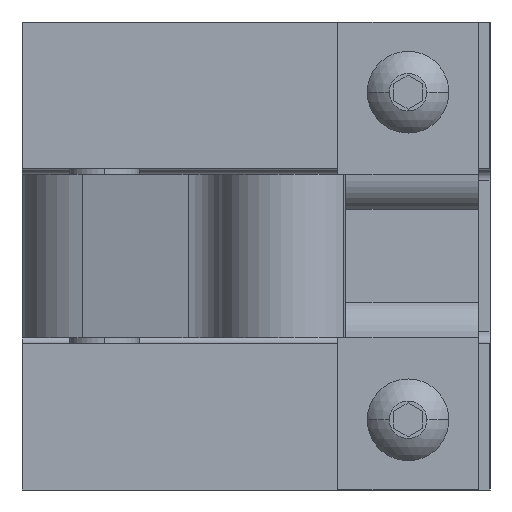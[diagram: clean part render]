
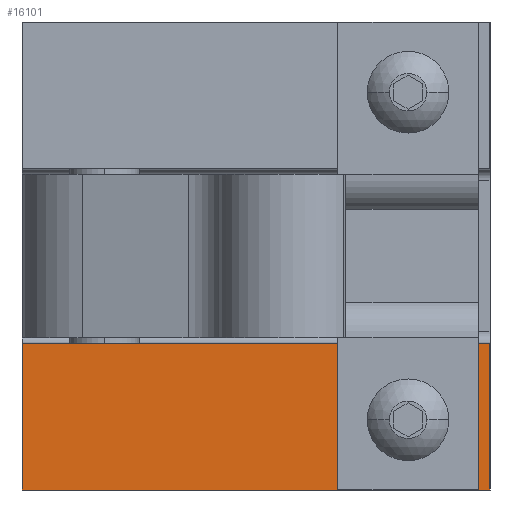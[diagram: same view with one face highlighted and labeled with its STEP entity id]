
A CAD part, left-side view. The second image highlights one B-rep face of the part: STEP entity #16101.
In plain terms, the highlighted planar face has unit normal (-1, 0, 0).
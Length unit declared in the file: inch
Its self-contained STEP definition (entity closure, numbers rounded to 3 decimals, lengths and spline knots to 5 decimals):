
#2417 = CARTESIAN_POINT ( 'NONE',  ( 6.18951, 3.94154, -2.25 ) ) ;
#2620 = CARTESIAN_POINT ( 'NONE',  ( 6.18951, 3.94154, -2. ) ) ;
#2621 = DIRECTION ( 'NONE',  ( 0., 0., 1. ) ) ;
#2629 = CARTESIAN_POINT ( 'NONE',  ( 6.18951, 3.94154, -2.125 ) ) ;
#2634 = AXIS2_PLACEMENT_3D ( 'NONE', #2629, #2700, #2621 ) ;
#2687 = CIRCLE ( 'NONE', #2634, 0.125 ) ;
#2700 = DIRECTION ( 'NONE',  ( -1., 0., 0. ) ) ;
#3350 = CARTESIAN_POINT ( 'NONE',  ( 6.18951, 6.00404, -1.715 ) ) ;
#3422 = DIRECTION ( 'NONE',  ( 0., 0., 1. ) ) ;
#3423 = VECTOR ( 'NONE', #3422, 39.37008 ) ;
#3424 = CARTESIAN_POINT ( 'NONE',  ( 6.18951, 6.00404, -2.5 ) ) ;
#3425 = LINE ( 'NONE', #3424, #3423 ) ;
#3443 = CARTESIAN_POINT ( 'NONE',  ( 6.18951, 6.00404, -2.5 ) ) ;
#4408 = AXIS2_PLACEMENT_3D ( 'NONE', #4423, #4422, #4421 ) ;
#4409 = PLANE ( 'NONE',  #4408 ) ;
#4421 = DIRECTION ( 'NONE',  ( 0., 0., 1. ) ) ;
#4422 = DIRECTION ( 'NONE',  ( -1., 0., 0. ) ) ;
#4423 = CARTESIAN_POINT ( 'NONE',  ( 6.18951, 3.50404, -2.5 ) ) ;
#4487 = FACE_OUTER_BOUND ( 'NONE', #16367, .T. ) ;
#4489 = FACE_BOUND ( 'NONE', #16102, .T. ) ;
#4526 = DIRECTION ( 'NONE',  ( 0., -1., 0. ) ) ;
#4527 = VECTOR ( 'NONE', #4526, 39.37008 ) ;
#4528 = CARTESIAN_POINT ( 'NONE',  ( 6.18951, 3.50404, -1.715 ) ) ;
#4529 = LINE ( 'NONE', #4528, #4527 ) ;
#4530 = DIRECTION ( 'NONE',  ( 0., 0., 1. ) ) ;
#4531 = DIRECTION ( 'NONE',  ( -1., 0., 0. ) ) ;
#4532 = CARTESIAN_POINT ( 'NONE',  ( 6.18951, 3.94154, -2.125 ) ) ;
#4533 = AXIS2_PLACEMENT_3D ( 'NONE', #4532, #4531, #4530 ) ;
#4534 = CIRCLE ( 'NONE', #4533, 0.125 ) ;
#4702 = DIRECTION ( 'NONE',  ( 0., -1., 0. ) ) ;
#4703 = VECTOR ( 'NONE', #4702, 39.37008 ) ;
#4704 = CARTESIAN_POINT ( 'NONE',  ( 6.18951, 3.50404, -2.5 ) ) ;
#4705 = LINE ( 'NONE', #4704, #4703 ) ;
#4882 = CARTESIAN_POINT ( 'NONE',  ( 6.18951, 3.50404, -2.5 ) ) ;
#4883 = CARTESIAN_POINT ( 'NONE',  ( 6.18951, 3.50404, -1.715 ) ) ;
#5277 = DIRECTION ( 'NONE',  ( 0., 0., 1. ) ) ;
#5278 = VECTOR ( 'NONE', #5277, 39.37008 ) ;
#5279 = CARTESIAN_POINT ( 'NONE',  ( 6.18951, 3.50404, -2.5 ) ) ;
#5285 = LINE ( 'NONE', #5279, #5278 ) ;
#15263 = VERTEX_POINT ( 'NONE', #2417 ) ;
#15357 = EDGE_CURVE ( 'NONE', #15263, #15358, #2687, .T. ) ;
#15358 = VERTEX_POINT ( 'NONE', #2620 ) ;
#15631 = VERTEX_POINT ( 'NONE', #3350 ) ;
#15709 = VERTEX_POINT ( 'NONE', #3443 ) ;
#15711 = EDGE_CURVE ( 'NONE', #15709, #15631, #3425, .T. ) ;
#16101 = ADVANCED_FACE ( 'NONE', ( #4489, #4487 ), #4409, .T. ) ;
#16102 = EDGE_LOOP ( 'NONE', ( #16116, #16118 ) ) ;
#16115 = ORIENTED_EDGE ( 'NONE', *, *, #16119, .F. ) ;
#16116 = ORIENTED_EDGE ( 'NONE', *, *, #16117, .F. ) ;
#16117 = EDGE_CURVE ( 'NONE', #15358, #15263, #4534, .T. ) ;
#16118 = ORIENTED_EDGE ( 'NONE', *, *, #15357, .F. ) ;
#16119 = EDGE_CURVE ( 'NONE', #15631, #16266, #4529, .T. ) ;
#16193 = ORIENTED_EDGE ( 'NONE', *, *, #16194, .T. ) ;
#16194 = EDGE_CURVE ( 'NONE', #15709, #16268, #4705, .T. ) ;
#16264 = ORIENTED_EDGE ( 'NONE', *, *, #16368, .T. ) ;
#16266 = VERTEX_POINT ( 'NONE', #4883 ) ;
#16267 = ORIENTED_EDGE ( 'NONE', *, *, #15711, .F. ) ;
#16268 = VERTEX_POINT ( 'NONE', #4882 ) ;
#16367 = EDGE_LOOP ( 'NONE', ( #16115, #16267, #16193, #16264 ) ) ;
#16368 = EDGE_CURVE ( 'NONE', #16268, #16266, #5285, .T. ) ;
